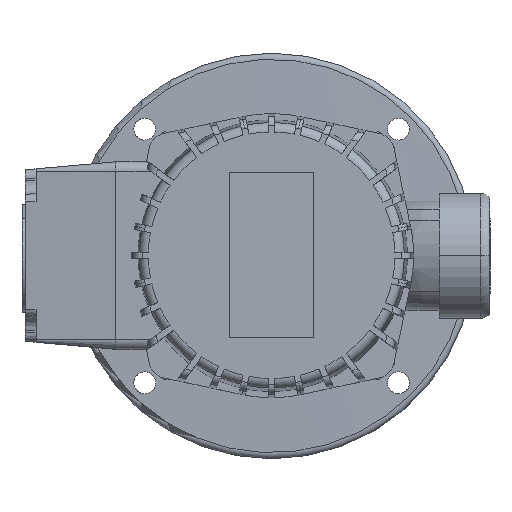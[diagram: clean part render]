
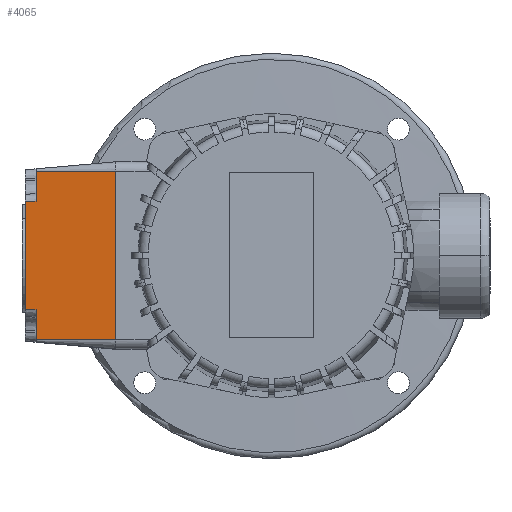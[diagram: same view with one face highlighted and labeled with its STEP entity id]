
A CAD part, top view. The second image highlights one B-rep face of the part: STEP entity #4065.
In plain terms, the highlighted planar face has unit normal (-0.087, 0, 0.996).
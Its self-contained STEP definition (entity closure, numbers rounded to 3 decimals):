
#4065=ADVANCED_FACE('',(#10839),#10840,.T.);
#4105=VERTEX_POINT('',#10886);
#4143=VERTEX_POINT('',#10926);
#4529=EDGE_CURVE('',#7671,#7127,#11353,.T.);
#5039=VERTEX_POINT('',#11918);
#5791=EDGE_CURVE('',#4143,#7665,#12747,.T.);
#5895=EDGE_CURVE('',#5039,#7671,#12861,.T.);
#6037=VERTEX_POINT('',#13016);
#6391=EDGE_CURVE('',#6037,#7127,#13402,.T.);
#7017=EDGE_CURVE('',#4105,#4143,#14083,.T.);
#7127=VERTEX_POINT('',#14202);
#7195=EDGE_CURVE('',#10029,#4105,#14277,.T.);
#7665=VERTEX_POINT('',#14797);
#7671=VERTEX_POINT('',#14804);
#8485=EDGE_CURVE('',#7665,#5039,#15699,.T.);
#8615=EDGE_CURVE('',#6037,#10029,#15843,.T.);
#10029=VERTEX_POINT('',#17398);
#10839=FACE_OUTER_BOUND('',#19201,.T.);
#10840=PLANE('',#19202);
#10886=CARTESIAN_POINT('',(-75.5,27.0,60.269));
#10926=CARTESIAN_POINT('',(-75.5,17.353,60.269));
#11353=LINE('',#20487,#20488);
#11918=CARTESIAN_POINT('',(-79.0,-17.326,59.963));
#12747=B_SPLINE_CURVE_WITH_KNOTS('',2,(#23256,#23257,#23258),.UNSPECIFIED.,.F.,.F.,(3,3),(0.0,3.513),.UNSPECIFIED.);
#12861=B_SPLINE_CURVE_WITH_KNOTS('',2,(#23491,#23492,#23493),.UNSPECIFIED.,.F.,.F.,(3,3),(0.0,3.513),.UNSPECIFIED.);
#13016=CARTESIAN_POINT('',(-50.0,-27.0,62.5));
#13402=LINE('',#24676,#24677);
#14083=LINE('',#26443,#26444);
#14202=CARTESIAN_POINT('',(-75.5,-27.0,60.269));
#14277=LINE('',#26965,#26966);
#14797=CARTESIAN_POINT('',(-79.0,17.326,59.963));
#14804=CARTESIAN_POINT('',(-75.5,-17.353,60.269));
#15699=LINE('',#30093,#30094);
#15843=LINE('',#30346,#30347);
#17398=CARTESIAN_POINT('',(-50.0,27.0,62.5));
#19201=EDGE_LOOP('',(#34788,#34789,#34790,#34791,#34792,#34793,#34794,#34795));
#19202=AXIS2_PLACEMENT_3D('',#34796,#34797,#34798);
#20487=CARTESIAN_POINT('',(-75.5,1.189,60.269));
#20488=VECTOR('',#35390,1.0);
#23256=CARTESIAN_POINT('',(-75.5,17.353,60.269));
#23257=CARTESIAN_POINT('',(-77.297,17.339,60.112));
#23258=CARTESIAN_POINT('',(-79.0,17.326,59.963));
#23491=CARTESIAN_POINT('',(-79.0,-17.326,59.963));
#23492=CARTESIAN_POINT('',(-77.297,-17.339,60.112));
#23493=CARTESIAN_POINT('',(-75.5,-17.353,60.269));
#24676=CARTESIAN_POINT('',(-50.0,-27.0,62.5));
#24677=VECTOR('',#37812,1.0);
#26443=CARTESIAN_POINT('',(-75.5,25.811,60.269));
#26444=VECTOR('',#38526,1.0);
#26965=CARTESIAN_POINT('',(-50.0,27.0,62.5));
#26966=VECTOR('',#38788,1.0);
#30093=CARTESIAN_POINT('',(-79.0,-27.0,59.963));
#30094=VECTOR('',#40346,1.0);
#30346=CARTESIAN_POINT('',(-50.0,-27.0,62.5));
#30347=VECTOR('',#40538,1.0);
#34788=ORIENTED_EDGE('',*,*,#4529,.T.);
#34789=ORIENTED_EDGE('',*,*,#6391,.F.);
#34790=ORIENTED_EDGE('',*,*,#8615,.T.);
#34791=ORIENTED_EDGE('',*,*,#7195,.T.);
#34792=ORIENTED_EDGE('',*,*,#7017,.T.);
#34793=ORIENTED_EDGE('',*,*,#5791,.T.);
#34794=ORIENTED_EDGE('',*,*,#8485,.T.);
#34795=ORIENTED_EDGE('',*,*,#5895,.T.);
#34796=CARTESIAN_POINT('',(-50.0,27.0,62.5));
#34797=DIRECTION('',(-0.087,0.0,0.996));
#34798=DIRECTION('',(0.0,1.0,0.0));
#35390=DIRECTION('',(0.0,-1.0,0.0));
#37812=DIRECTION('',(-0.996,0.,-0.087));
#38526=DIRECTION('',(0.0,-1.0,0.0));
#38788=DIRECTION('',(-0.996,0.0,-0.087));
#40346=DIRECTION('',(0.0,-1.0,0.0));
#40538=DIRECTION('',(0.0,1.0,0.0));
